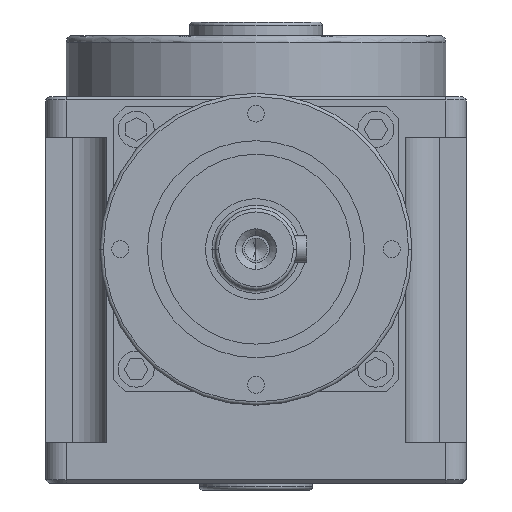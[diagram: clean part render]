
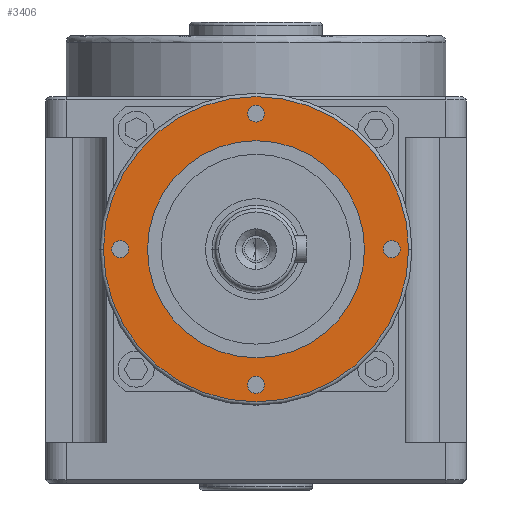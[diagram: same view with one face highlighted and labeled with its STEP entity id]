
A CAD part, front view. The second image highlights one B-rep face of the part: STEP entity #3406.
In plain terms, the highlighted planar face has unit normal (0, -1, 0).
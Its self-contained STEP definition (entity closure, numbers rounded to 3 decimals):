
#108 = CIRCLE ( 'NONE', #10253, 16. ) ;
#112 = AXIS2_PLACEMENT_3D ( 'NONE', #4878, #8372, #2264 ) ;
#115 = VERTEX_POINT ( 'NONE', #1145 ) ;
#464 = CIRCLE ( 'NONE', #3739, 1.25 ) ;
#493 = FACE_OUTER_BOUND ( 'NONE', #2338, .T. ) ;
#549 = AXIS2_PLACEMENT_3D ( 'NONE', #7404, #5557, #3112 ) ;
#587 = VERTEX_POINT ( 'NONE', #2217 ) ;
#627 = EDGE_CURVE ( 'NONE', #3521, #9061, #5476, .T. ) ;
#717 = CARTESIAN_POINT ( 'NONE',  ( -1.25, -60.5, -20. ) ) ;
#736 = ORIENTED_EDGE ( 'NONE', *, *, #2950, .F. ) ;
#758 = VERTEX_POINT ( 'NONE', #717 ) ;
#828 = AXIS2_PLACEMENT_3D ( 'NONE', #7318, #2070, #5640 ) ;
#920 = ORIENTED_EDGE ( 'NONE', *, *, #2808, .F. ) ;
#1145 = CARTESIAN_POINT ( 'NONE',  ( -22.5, -60.5, 0. ) ) ;
#1160 = ORIENTED_EDGE ( 'NONE', *, *, #10472, .F. ) ;
#1202 = AXIS2_PLACEMENT_3D ( 'NONE', #5425, #7106, #8875 ) ;
#1222 = EDGE_CURVE ( 'NONE', #10761, #587, #2677, .T. ) ;
#1227 = CARTESIAN_POINT ( 'NONE',  ( 0., -60.5, 0. ) ) ;
#1309 = FACE_BOUND ( 'NONE', #4461, .T. ) ;
#1426 = EDGE_LOOP ( 'NONE', ( #3328, #736 ) ) ;
#1468 = FACE_BOUND ( 'NONE', #2841, .T. ) ;
#1526 = AXIS2_PLACEMENT_3D ( 'NONE', #3457, #6896, #10244 ) ;
#1600 = ORIENTED_EDGE ( 'NONE', *, *, #1222, .F. ) ;
#1604 = AXIS2_PLACEMENT_3D ( 'NONE', #4317, #10388, #9594 ) ;
#2036 = CARTESIAN_POINT ( 'NONE',  ( -20., -60.5, 0. ) ) ;
#2070 = DIRECTION ( 'NONE',  ( 0., -1., 0. ) ) ;
#2091 = CARTESIAN_POINT ( 'NONE',  ( -1.25, -60.5, 20. ) ) ;
#2121 = CIRCLE ( 'NONE', #828, 1.25 ) ;
#2217 = CARTESIAN_POINT ( 'NONE',  ( 1.25, -60.5, 20. ) ) ;
#2264 = DIRECTION ( 'NONE',  ( 1., 0., 0. ) ) ;
#2338 = EDGE_LOOP ( 'NONE', ( #9856, #10107 ) ) ;
#2375 = CARTESIAN_POINT ( 'NONE',  ( 20., -60.5, 0. ) ) ;
#2428 = DIRECTION ( 'NONE',  ( 0., -1., 0. ) ) ;
#2483 = CIRCLE ( 'NONE', #6638, 1.25 ) ;
#2615 = EDGE_LOOP ( 'NONE', ( #4707, #920 ) ) ;
#2677 = CIRCLE ( 'NONE', #9019, 1.25 ) ;
#2781 = DIRECTION ( 'NONE',  ( 0., -1., 0. ) ) ;
#2808 = EDGE_CURVE ( 'NONE', #9061, #3521, #8384, .T. ) ;
#2841 = EDGE_LOOP ( 'NONE', ( #3690, #1160 ) ) ;
#2905 = CARTESIAN_POINT ( 'NONE',  ( 20., -60.5, 0. ) ) ;
#2950 = EDGE_CURVE ( 'NONE', #758, #3625, #6406, .T. ) ;
#3047 = CARTESIAN_POINT ( 'NONE',  ( 0., -60.5, 0. ) ) ;
#3060 = CARTESIAN_POINT ( 'NONE',  ( 18.75, -60.5, 0. ) ) ;
#3112 = DIRECTION ( 'NONE',  ( 1., 0., 0. ) ) ;
#3120 = FACE_BOUND ( 'NONE', #2615, .T. ) ;
#3328 = ORIENTED_EDGE ( 'NONE', *, *, #4262, .F. ) ;
#3406 = ADVANCED_FACE ( 'NONE', ( #3120, #8266, #1468, #7411, #1309, #493 ), #10021, .T. ) ;
#3457 = CARTESIAN_POINT ( 'NONE',  ( 0., -60.5, -20. ) ) ;
#3512 = AXIS2_PLACEMENT_3D ( 'NONE', #2905, #2781, #8783 ) ;
#3521 = VERTEX_POINT ( 'NONE', #5053 ) ;
#3532 = VERTEX_POINT ( 'NONE', #5158 ) ;
#3598 = EDGE_CURVE ( 'NONE', #3532, #5160, #6897, .T. ) ;
#3625 = VERTEX_POINT ( 'NONE', #7455 ) ;
#3690 = ORIENTED_EDGE ( 'NONE', *, *, #4394, .F. ) ;
#3725 = ORIENTED_EDGE ( 'NONE', *, *, #3598, .F. ) ;
#3739 = AXIS2_PLACEMENT_3D ( 'NONE', #2036, #5322, #10708 ) ;
#3766 = AXIS2_PLACEMENT_3D ( 'NONE', #1227, #4691, #5597 ) ;
#4110 = CIRCLE ( 'NONE', #3766, 22.5 ) ;
#4191 = CARTESIAN_POINT ( 'NONE',  ( -16., -60.5, 0. ) ) ;
#4262 = EDGE_CURVE ( 'NONE', #3625, #758, #7870, .T. ) ;
#4317 = CARTESIAN_POINT ( 'NONE',  ( 0., -60.5, 0. ) ) ;
#4394 = EDGE_CURVE ( 'NONE', #9115, #10414, #2121, .T. ) ;
#4461 = EDGE_LOOP ( 'NONE', ( #3725, #7889 ) ) ;
#4513 = DIRECTION ( 'NONE',  ( 1., 0., 0. ) ) ;
#4691 = DIRECTION ( 'NONE',  ( 0., -1., 0. ) ) ;
#4707 = ORIENTED_EDGE ( 'NONE', *, *, #627, .F. ) ;
#4878 = CARTESIAN_POINT ( 'NONE',  ( 0., -60.5, 0. ) ) ;
#4906 = DIRECTION ( 'NONE',  ( 1., 0., 0. ) ) ;
#4920 = CARTESIAN_POINT ( 'NONE',  ( -18.75, -60.5, 0. ) ) ;
#5053 = CARTESIAN_POINT ( 'NONE',  ( 21.25, -60.5, 0. ) ) ;
#5158 = CARTESIAN_POINT ( 'NONE',  ( 16., -60.5, 0. ) ) ;
#5160 = VERTEX_POINT ( 'NONE', #4191 ) ;
#5322 = DIRECTION ( 'NONE',  ( 0., -1., 0. ) ) ;
#5349 = ORIENTED_EDGE ( 'NONE', *, *, #6175, .F. ) ;
#5359 = EDGE_LOOP ( 'NONE', ( #5349, #1600 ) ) ;
#5425 = CARTESIAN_POINT ( 'NONE',  ( 0., -60.5, -20. ) ) ;
#5476 = CIRCLE ( 'NONE', #9266, 1.25 ) ;
#5557 = DIRECTION ( 'NONE',  ( 0., -1., 0. ) ) ;
#5597 = DIRECTION ( 'NONE',  ( 1., 0., 0. ) ) ;
#5640 = DIRECTION ( 'NONE',  ( 1., 0., 0. ) ) ;
#6175 = EDGE_CURVE ( 'NONE', #587, #10761, #2483, .T. ) ;
#6238 = CARTESIAN_POINT ( 'NONE',  ( 0., -60.5, 20. ) ) ;
#6254 = CARTESIAN_POINT ( 'NONE',  ( 0., -60.5, 20. ) ) ;
#6406 = CIRCLE ( 'NONE', #1526, 1.25 ) ;
#6612 = EDGE_CURVE ( 'NONE', #115, #7651, #4110, .T. ) ;
#6638 = AXIS2_PLACEMENT_3D ( 'NONE', #6238, #9697, #7984 ) ;
#6896 = DIRECTION ( 'NONE',  ( 0., -1., 0. ) ) ;
#6897 = CIRCLE ( 'NONE', #549, 16. ) ;
#7106 = DIRECTION ( 'NONE',  ( 0., -1., 0. ) ) ;
#7195 = EDGE_CURVE ( 'NONE', #7651, #115, #9917, .T. ) ;
#7318 = CARTESIAN_POINT ( 'NONE',  ( -20., -60.5, 0. ) ) ;
#7404 = CARTESIAN_POINT ( 'NONE',  ( 0., -60.5, 0. ) ) ;
#7411 = FACE_BOUND ( 'NONE', #5359, .T. ) ;
#7455 = CARTESIAN_POINT ( 'NONE',  ( 1.25, -60.5, -20. ) ) ;
#7651 = VERTEX_POINT ( 'NONE', #7687 ) ;
#7687 = CARTESIAN_POINT ( 'NONE',  ( 22.5, -60.5, 0. ) ) ;
#7870 = CIRCLE ( 'NONE', #1202, 1.25 ) ;
#7889 = ORIENTED_EDGE ( 'NONE', *, *, #9486, .F. ) ;
#7984 = DIRECTION ( 'NONE',  ( 1., 0., 0. ) ) ;
#8266 = FACE_BOUND ( 'NONE', #1426, .T. ) ;
#8297 = DIRECTION ( 'NONE',  ( 0., -1., 0. ) ) ;
#8372 = DIRECTION ( 'NONE',  ( 0., -1., 0. ) ) ;
#8384 = CIRCLE ( 'NONE', #3512, 1.25 ) ;
#8783 = DIRECTION ( 'NONE',  ( 1., 0., 0. ) ) ;
#8875 = DIRECTION ( 'NONE',  ( 1., 0., 0. ) ) ;
#9019 = AXIS2_PLACEMENT_3D ( 'NONE', #6254, #9721, #4513 ) ;
#9061 = VERTEX_POINT ( 'NONE', #3060 ) ;
#9115 = VERTEX_POINT ( 'NONE', #4920 ) ;
#9266 = AXIS2_PLACEMENT_3D ( 'NONE', #2375, #2428, #11103 ) ;
#9454 = CARTESIAN_POINT ( 'NONE',  ( -21.25, -60.5, 0. ) ) ;
#9486 = EDGE_CURVE ( 'NONE', #5160, #3532, #108, .T. ) ;
#9594 = DIRECTION ( 'NONE',  ( 1., 0., 0. ) ) ;
#9697 = DIRECTION ( 'NONE',  ( 0., -1., 0. ) ) ;
#9721 = DIRECTION ( 'NONE',  ( 0., -1., 0. ) ) ;
#9856 = ORIENTED_EDGE ( 'NONE', *, *, #7195, .T. ) ;
#9917 = CIRCLE ( 'NONE', #1604, 22.5 ) ;
#10021 = PLANE ( 'NONE',  #112 ) ;
#10107 = ORIENTED_EDGE ( 'NONE', *, *, #6612, .T. ) ;
#10244 = DIRECTION ( 'NONE',  ( 1., 0., 0. ) ) ;
#10253 = AXIS2_PLACEMENT_3D ( 'NONE', #3047, #8297, #4906 ) ;
#10388 = DIRECTION ( 'NONE',  ( 0., -1., 0. ) ) ;
#10414 = VERTEX_POINT ( 'NONE', #9454 ) ;
#10472 = EDGE_CURVE ( 'NONE', #10414, #9115, #464, .T. ) ;
#10708 = DIRECTION ( 'NONE',  ( 1., 0., 0. ) ) ;
#10761 = VERTEX_POINT ( 'NONE', #2091 ) ;
#11103 = DIRECTION ( 'NONE',  ( 1., 0., 0. ) ) ;
